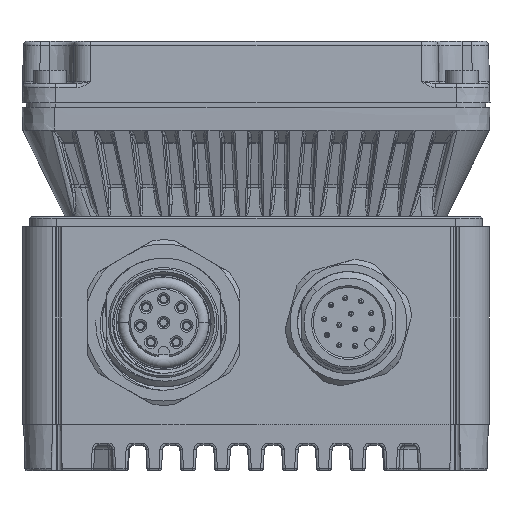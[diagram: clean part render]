
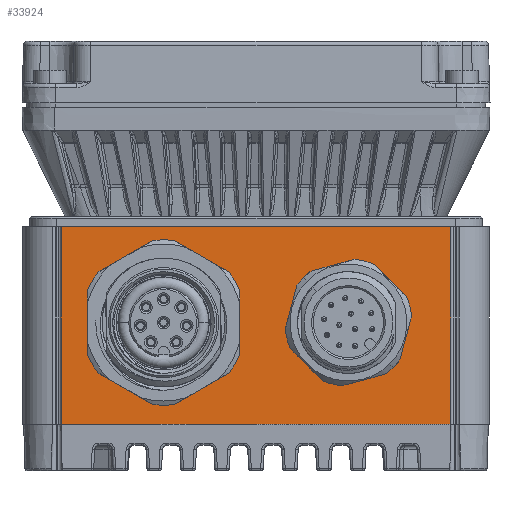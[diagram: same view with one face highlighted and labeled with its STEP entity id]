
A CAD part, front view. The second image highlights one B-rep face of the part: STEP entity #33924.
In plain terms, the highlighted planar face has unit normal (0, -1, 0).
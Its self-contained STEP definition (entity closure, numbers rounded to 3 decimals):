
#127=DIRECTION('',(1.,0.,0.));
#128=VECTOR('',#127,46.);
#129=CARTESIAN_POINT('',(-23.,-41.,-1.2));
#130=LINE('',#129,#128);
#135=DIRECTION('',(0.,0.,-1.));
#136=VECTOR('',#135,23.3);
#137=CARTESIAN_POINT('',(23.,-41.,-1.2));
#138=LINE('',#137,#136);
#142=DIRECTION('',(-1.,0.,0.));
#143=VECTOR('',#142,46.);
#144=CARTESIAN_POINT('',(23.,-41.,-24.5));
#145=LINE('',#144,#143);
#149=CARTESIAN_POINT('',(-10.9,-41.,-12.5));
#150=DIRECTION('',(0.,-1.,0.));
#151=DIRECTION('',(-0.923,0.,-0.385));
#152=AXIS2_PLACEMENT_3D('',#149,#150,#151);
#157=DIRECTION('',(0.866,0.,-0.5));
#158=VECTOR('',#157,7.5);
#159=CARTESIAN_POINT('',(-18.648,-41.,-18.419));
#160=LINE('',#159,#158);
#164=CARTESIAN_POINT('',(-10.9,-41.,-12.5));
#165=DIRECTION('',(0.,-1.,0.));
#166=DIRECTION('',(-0.128,0.,-0.992));
#167=AXIS2_PLACEMENT_3D('',#164,#165,#166);
#172=DIRECTION('',(0.866,0.,0.5));
#173=VECTOR('',#172,7.5);
#174=CARTESIAN_POINT('',(-9.648,-41.,-22.169));
#175=LINE('',#174,#173);
#179=CARTESIAN_POINT('',(-10.9,-41.,-12.5));
#180=DIRECTION('',(0.,-1.,0.));
#181=DIRECTION('',(0.795,0.,-0.607));
#182=AXIS2_PLACEMENT_3D('',#179,#180,#181);
#187=DIRECTION('',(0.,0.,1.));
#188=VECTOR('',#187,7.5);
#189=CARTESIAN_POINT('',(-1.9,-41.,-16.25));
#190=LINE('',#189,#188);
#194=CARTESIAN_POINT('',(-10.9,-41.,-12.5));
#195=DIRECTION('',(0.,-1.,0.));
#196=DIRECTION('',(0.923,0.,0.385));
#197=AXIS2_PLACEMENT_3D('',#194,#195,#196);
#202=DIRECTION('',(-0.866,0.,0.5));
#203=VECTOR('',#202,7.5);
#204=CARTESIAN_POINT('',(-3.152,-41.,-6.581));
#205=LINE('',#204,#203);
#209=CARTESIAN_POINT('',(-10.9,-41.,-12.5));
#210=DIRECTION('',(0.,-1.,0.));
#211=DIRECTION('',(0.128,0.,0.992));
#212=AXIS2_PLACEMENT_3D('',#209,#210,#211);
#217=DIRECTION('',(-0.866,0.,-0.5));
#218=VECTOR('',#217,7.5);
#219=CARTESIAN_POINT('',(-12.152,-41.,-2.831));
#220=LINE('',#219,#218);
#224=CARTESIAN_POINT('',(-10.9,-41.,-12.5));
#225=DIRECTION('',(0.,-1.,0.));
#226=DIRECTION('',(-0.795,0.,0.607));
#227=AXIS2_PLACEMENT_3D('',#224,#225,#226);
#232=DIRECTION('',(0.,0.,-1.));
#233=VECTOR('',#232,7.5);
#234=CARTESIAN_POINT('',(-19.9,-41.,-8.75));
#235=LINE('',#234,#233);
#239=DIRECTION('',(-0.259,0.,-0.966));
#240=VECTOR('',#239,5.385);
#241=CARTESIAN_POINT('',(4.835,-41.,-8.087));
#242=LINE('',#241,#240);
#246=CARTESIAN_POINT('',(10.9,-41.,-12.5));
#247=DIRECTION('',(0.,-1.,0.));
#248=DIRECTION('',(-0.994,0.,-0.105));
#249=AXIS2_PLACEMENT_3D('',#246,#247,#248);
#254=DIRECTION('',(0.707,0.,-0.707));
#255=VECTOR('',#254,5.385);
#256=CARTESIAN_POINT('',(4.046,-41.,-15.546));
#257=LINE('',#256,#255);
#261=CARTESIAN_POINT('',(10.9,-41.,-12.5));
#262=DIRECTION('',(0.,-1.,0.));
#263=DIRECTION('',(-0.406,0.,-0.914));
#264=AXIS2_PLACEMENT_3D('',#261,#262,#263);
#269=DIRECTION('',(0.966,0.,0.259));
#270=VECTOR('',#269,5.385);
#271=CARTESIAN_POINT('',(10.111,-41.,-19.958));
#272=LINE('',#271,#270);
#276=CARTESIAN_POINT('',(10.9,-41.,-12.5));
#277=DIRECTION('',(0.,-1.,0.));
#278=DIRECTION('',(0.588,0.,-0.809));
#279=AXIS2_PLACEMENT_3D('',#276,#277,#278);
#284=DIRECTION('',(0.259,0.,0.966));
#285=VECTOR('',#284,5.385);
#286=CARTESIAN_POINT('',(16.965,-41.,-16.913));
#287=LINE('',#286,#285);
#291=CARTESIAN_POINT('',(10.9,-41.,-12.5));
#292=DIRECTION('',(0.,-1.,0.));
#293=DIRECTION('',(0.994,0.,0.105));
#294=AXIS2_PLACEMENT_3D('',#291,#292,#293);
#299=DIRECTION('',(-0.707,0.,0.707));
#300=VECTOR('',#299,5.385);
#301=CARTESIAN_POINT('',(17.754,-41.,-9.454));
#302=LINE('',#301,#300);
#306=CARTESIAN_POINT('',(10.9,-41.,-12.5));
#307=DIRECTION('',(0.,-1.,0.));
#308=DIRECTION('',(0.406,0.,0.914));
#309=AXIS2_PLACEMENT_3D('',#306,#307,#308);
#314=DIRECTION('',(-0.966,0.,-0.259));
#315=VECTOR('',#314,5.385);
#316=CARTESIAN_POINT('',(11.689,-41.,-5.042));
#317=LINE('',#316,#315);
#321=CARTESIAN_POINT('',(10.9,-41.,-12.5));
#322=DIRECTION('',(0.,-1.,0.));
#323=DIRECTION('',(-0.588,0.,0.809));
#324=AXIS2_PLACEMENT_3D('',#321,#322,#323);
#6241=DIRECTION('',(0.,0.,-1.));
#6242=VECTOR('',#6241,23.3);
#6243=CARTESIAN_POINT('',(-23.,-41.,-1.2));
#6244=LINE('',#6243,#6242);
#30199=CARTESIAN_POINT('',(-23.,-41.,-1.2));
#30200=CARTESIAN_POINT('',(23.,-41.,-1.2));
#30201=VERTEX_POINT('',#30199);
#30202=VERTEX_POINT('',#30200);
#30203=CARTESIAN_POINT('',(23.,-41.,-24.5));
#30204=VERTEX_POINT('',#30203);
#30205=CARTESIAN_POINT('',(-23.,-41.,-24.5));
#30206=VERTEX_POINT('',#30205);
#33643=CARTESIAN_POINT('',(-19.9,-41.,-16.25));
#33644=CARTESIAN_POINT('',(-18.648,-41.,-18.419));
#33645=VERTEX_POINT('',#33643);
#33646=VERTEX_POINT('',#33644);
#33647=CARTESIAN_POINT('',(-12.152,-41.,-22.169));
#33648=VERTEX_POINT('',#33647);
#33649=CARTESIAN_POINT('',(-9.648,-41.,-22.169));
#33650=VERTEX_POINT('',#33649);
#33651=CARTESIAN_POINT('',(-3.152,-41.,-18.419));
#33652=VERTEX_POINT('',#33651);
#33653=CARTESIAN_POINT('',(-1.9,-41.,-16.25));
#33654=VERTEX_POINT('',#33653);
#33655=CARTESIAN_POINT('',(-1.9,-41.,-8.75));
#33656=VERTEX_POINT('',#33655);
#33657=CARTESIAN_POINT('',(-3.152,-41.,-6.581));
#33658=VERTEX_POINT('',#33657);
#33659=CARTESIAN_POINT('',(-9.648,-41.,-2.831));
#33660=VERTEX_POINT('',#33659);
#33661=CARTESIAN_POINT('',(-12.152,-41.,-2.831));
#33662=VERTEX_POINT('',#33661);
#33663=CARTESIAN_POINT('',(-18.648,-41.,-6.581));
#33664=VERTEX_POINT('',#33663);
#33665=CARTESIAN_POINT('',(-19.9,-41.,-8.75));
#33666=VERTEX_POINT('',#33665);
#33686=CARTESIAN_POINT('',(4.835,-41.,-8.087));
#33687=CARTESIAN_POINT('',(3.442,-41.,-13.289));
#33688=VERTEX_POINT('',#33686);
#33689=VERTEX_POINT('',#33687);
#33690=CARTESIAN_POINT('',(6.487,-41.,-6.435));
#33691=VERTEX_POINT('',#33690);
#33692=CARTESIAN_POINT('',(15.313,-41.,-18.565));
#33693=CARTESIAN_POINT('',(16.965,-41.,-16.913));
#33694=VERTEX_POINT('',#33692);
#33695=VERTEX_POINT('',#33693);
#33696=CARTESIAN_POINT('',(10.111,-41.,-19.958));
#33697=VERTEX_POINT('',#33696);
#33698=CARTESIAN_POINT('',(7.854,-41.,-19.354));
#33699=VERTEX_POINT('',#33698);
#33700=CARTESIAN_POINT('',(4.046,-41.,-15.546));
#33701=VERTEX_POINT('',#33700);
#33702=CARTESIAN_POINT('',(11.689,-41.,-5.042));
#33703=VERTEX_POINT('',#33702);
#33704=CARTESIAN_POINT('',(13.946,-41.,-5.646));
#33705=VERTEX_POINT('',#33704);
#33706=CARTESIAN_POINT('',(17.754,-41.,-9.454));
#33707=VERTEX_POINT('',#33706);
#33708=CARTESIAN_POINT('',(18.358,-41.,-11.711));
#33709=VERTEX_POINT('',#33708);
#33858=CARTESIAN_POINT('',(-27.5,-41.,0.));
#33859=DIRECTION('',(0.,-1.,0.));
#33860=DIRECTION('',(1.,0.,0.));
#33861=AXIS2_PLACEMENT_3D('',#33858,#33859,#33860);
#33862=PLANE('',#33861);
#33864=ORIENTED_EDGE('',*,*,#33863,.T.);
#33866=ORIENTED_EDGE('',*,*,#33865,.T.);
#33868=ORIENTED_EDGE('',*,*,#33867,.T.);
#33870=ORIENTED_EDGE('',*,*,#33869,.F.);
#33871=EDGE_LOOP('',(#33864,#33866,#33868,#33870));
#33872=FACE_OUTER_BOUND('',#33871,.F.);
#33874=ORIENTED_EDGE('',*,*,#33873,.T.);
#33876=ORIENTED_EDGE('',*,*,#33875,.T.);
#33878=ORIENTED_EDGE('',*,*,#33877,.T.);
#33880=ORIENTED_EDGE('',*,*,#33879,.T.);
#33882=ORIENTED_EDGE('',*,*,#33881,.T.);
#33883=ORIENTED_EDGE('',*,*,#33843,.T.);
#33885=ORIENTED_EDGE('',*,*,#33884,.T.);
#33887=ORIENTED_EDGE('',*,*,#33886,.T.);
#33889=ORIENTED_EDGE('',*,*,#33888,.T.);
#33891=ORIENTED_EDGE('',*,*,#33890,.T.);
#33893=ORIENTED_EDGE('',*,*,#33892,.T.);
#33895=ORIENTED_EDGE('',*,*,#33894,.T.);
#33896=EDGE_LOOP('',(#33874,#33876,#33878,#33880,#33882,#33883,#33885,#33887,
#33889,#33891,#33893,#33895));
#33897=FACE_BOUND('',#33896,.F.);
#33899=ORIENTED_EDGE('',*,*,#33898,.T.);
#33901=ORIENTED_EDGE('',*,*,#33900,.T.);
#33903=ORIENTED_EDGE('',*,*,#33902,.T.);
#33905=ORIENTED_EDGE('',*,*,#33904,.T.);
#33907=ORIENTED_EDGE('',*,*,#33906,.T.);
#33909=ORIENTED_EDGE('',*,*,#33908,.T.);
#33911=ORIENTED_EDGE('',*,*,#33910,.T.);
#33913=ORIENTED_EDGE('',*,*,#33912,.T.);
#33915=ORIENTED_EDGE('',*,*,#33914,.T.);
#33917=ORIENTED_EDGE('',*,*,#33916,.T.);
#33919=ORIENTED_EDGE('',*,*,#33918,.T.);
#33921=ORIENTED_EDGE('',*,*,#33920,.T.);
#33922=EDGE_LOOP('',(#33899,#33901,#33903,#33905,#33907,#33909,#33911,#33913,
#33915,#33917,#33919,#33921));
#33923=FACE_BOUND('',#33922,.F.);
#33924=ADVANCED_FACE('',(#33872,#33897,#33923),#33862,.T.);
#153=CIRCLE('',#152,9.75);
#168=CIRCLE('',#167,9.75);
#183=CIRCLE('',#182,9.75);
#198=CIRCLE('',#197,9.75);
#213=CIRCLE('',#212,9.75);
#228=CIRCLE('',#227,9.75);
#250=CIRCLE('',#249,7.5);
#265=CIRCLE('',#264,7.5);
#280=CIRCLE('',#279,7.5);
#295=CIRCLE('',#294,7.5);
#310=CIRCLE('',#309,7.5);
#325=CIRCLE('',#324,7.5);
#33843=EDGE_CURVE('',#33654,#33656,#190,.T.);
#33863=EDGE_CURVE('',#30201,#30202,#130,.T.);
#33865=EDGE_CURVE('',#30202,#30204,#138,.T.);
#33867=EDGE_CURVE('',#30204,#30206,#145,.T.);
#33869=EDGE_CURVE('',#30201,#30206,#6244,.T.);
#33873=EDGE_CURVE('',#33645,#33646,#153,.T.);
#33875=EDGE_CURVE('',#33646,#33648,#160,.T.);
#33877=EDGE_CURVE('',#33648,#33650,#168,.T.);
#33879=EDGE_CURVE('',#33650,#33652,#175,.T.);
#33881=EDGE_CURVE('',#33652,#33654,#183,.T.);
#33884=EDGE_CURVE('',#33656,#33658,#198,.T.);
#33886=EDGE_CURVE('',#33658,#33660,#205,.T.);
#33888=EDGE_CURVE('',#33660,#33662,#213,.T.);
#33890=EDGE_CURVE('',#33662,#33664,#220,.T.);
#33892=EDGE_CURVE('',#33664,#33666,#228,.T.);
#33894=EDGE_CURVE('',#33666,#33645,#235,.T.);
#33898=EDGE_CURVE('',#33688,#33689,#242,.T.);
#33900=EDGE_CURVE('',#33689,#33701,#250,.T.);
#33902=EDGE_CURVE('',#33701,#33699,#257,.T.);
#33904=EDGE_CURVE('',#33699,#33697,#265,.T.);
#33906=EDGE_CURVE('',#33697,#33694,#272,.T.);
#33908=EDGE_CURVE('',#33694,#33695,#280,.T.);
#33910=EDGE_CURVE('',#33695,#33709,#287,.T.);
#33912=EDGE_CURVE('',#33709,#33707,#295,.T.);
#33914=EDGE_CURVE('',#33707,#33705,#302,.T.);
#33916=EDGE_CURVE('',#33705,#33703,#310,.T.);
#33918=EDGE_CURVE('',#33703,#33691,#317,.T.);
#33920=EDGE_CURVE('',#33691,#33688,#325,.T.);
